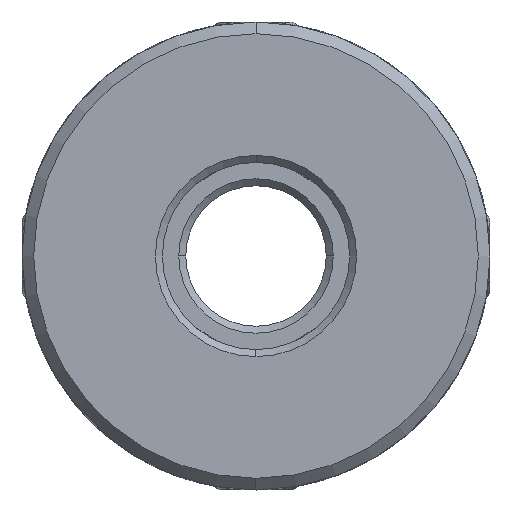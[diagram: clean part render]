
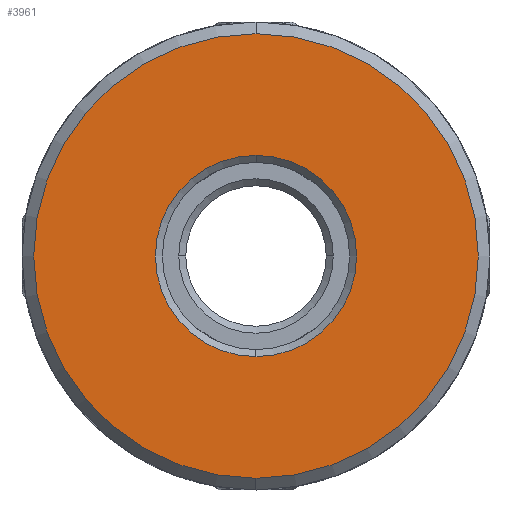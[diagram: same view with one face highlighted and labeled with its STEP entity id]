
A CAD part, front view. The second image highlights one B-rep face of the part: STEP entity #3961.
In plain terms, the highlighted planar face has unit normal (0, -1, 0).
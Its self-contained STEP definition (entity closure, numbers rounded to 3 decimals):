
#183 = FACE_OUTER_BOUND ( 'NONE', #6641, .T. ) ;
#955 = CIRCLE ( 'NONE', #5940, 4.3 ) ;
#1084 = EDGE_CURVE ( 'NONE', #7106, #2956, #7223, .T. ) ;
#1499 = CARTESIAN_POINT ( 'NONE',  ( 0., -23., -9.5 ) ) ;
#1532 = ORIENTED_EDGE ( 'NONE', *, *, #9625, .T. ) ;
#1809 = CARTESIAN_POINT ( 'NONE',  ( 0., -23., -4.3 ) ) ;
#1994 = ORIENTED_EDGE ( 'NONE', *, *, #6086, .T. ) ;
#2253 = CARTESIAN_POINT ( 'NONE',  ( 0., -23., 4.3 ) ) ;
#2400 = PLANE ( 'NONE',  #4888 ) ;
#2633 = ORIENTED_EDGE ( 'NONE', *, *, #7174, .T. ) ;
#2652 = AXIS2_PLACEMENT_3D ( 'NONE', #3999, #8569, #5008 ) ;
#2956 = VERTEX_POINT ( 'NONE', #2253 ) ;
#3261 = VERTEX_POINT ( 'NONE', #8687 ) ;
#3449 = DIRECTION ( 'NONE',  ( 0., 0., -1. ) ) ;
#3850 = DIRECTION ( 'NONE',  ( 0., 1., 0. ) ) ;
#3880 = CARTESIAN_POINT ( 'NONE',  ( 0., -23., 0. ) ) ;
#3961 = ADVANCED_FACE ( 'NONE', ( #4231, #183 ), #2400, .F. ) ;
#3999 = CARTESIAN_POINT ( 'NONE',  ( 0., -23., 0. ) ) ;
#4231 = FACE_BOUND ( 'NONE', #7118, .T. ) ;
#4616 = DIRECTION ( 'NONE',  ( 0., 1., 0. ) ) ;
#4888 = AXIS2_PLACEMENT_3D ( 'NONE', #9144, #4616, #6246 ) ;
#5008 = DIRECTION ( 'NONE',  ( 0., 0., -1. ) ) ;
#5540 = AXIS2_PLACEMENT_3D ( 'NONE', #8058, #9578, #8086 ) ;
#5940 = AXIS2_PLACEMENT_3D ( 'NONE', #3880, #3850, #7542 ) ;
#6086 = EDGE_CURVE ( 'NONE', #9643, #3261, #8942, .T. ) ;
#6106 = CIRCLE ( 'NONE', #5540, 9.5 ) ;
#6246 = DIRECTION ( 'NONE',  ( 0., 0., -1. ) ) ;
#6641 = EDGE_LOOP ( 'NONE', ( #1994, #2633 ) ) ;
#7038 = AXIS2_PLACEMENT_3D ( 'NONE', #8711, #7336, #3449 ) ;
#7106 = VERTEX_POINT ( 'NONE', #1809 ) ;
#7118 = EDGE_LOOP ( 'NONE', ( #1532, #8114 ) ) ;
#7174 = EDGE_CURVE ( 'NONE', #3261, #9643, #6106, .T. ) ;
#7223 = CIRCLE ( 'NONE', #7038, 4.3 ) ;
#7336 = DIRECTION ( 'NONE',  ( 0., 1., 0. ) ) ;
#7542 = DIRECTION ( 'NONE',  ( 0., 0., -1. ) ) ;
#8058 = CARTESIAN_POINT ( 'NONE',  ( 0., -23., 0. ) ) ;
#8086 = DIRECTION ( 'NONE',  ( 0., 0., -1. ) ) ;
#8114 = ORIENTED_EDGE ( 'NONE', *, *, #1084, .T. ) ;
#8569 = DIRECTION ( 'NONE',  ( 0., -1., 0. ) ) ;
#8687 = CARTESIAN_POINT ( 'NONE',  ( 0., -23., 9.5 ) ) ;
#8711 = CARTESIAN_POINT ( 'NONE',  ( 0., -23., 0. ) ) ;
#8942 = CIRCLE ( 'NONE', #2652, 9.5 ) ;
#9144 = CARTESIAN_POINT ( 'NONE',  ( 50., -23., -15.365 ) ) ;
#9578 = DIRECTION ( 'NONE',  ( 0., -1., 0. ) ) ;
#9625 = EDGE_CURVE ( 'NONE', #2956, #7106, #955, .T. ) ;
#9643 = VERTEX_POINT ( 'NONE', #1499 ) ;
